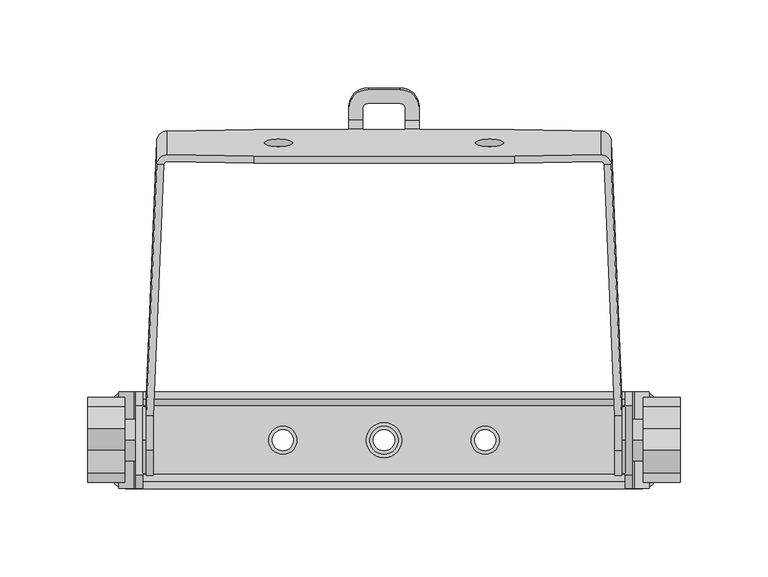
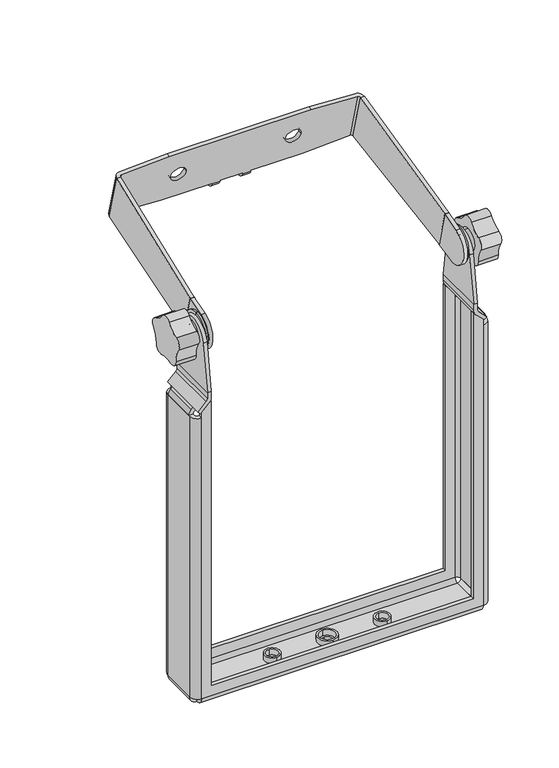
"""IFC4 building model written with IfcOpenShell, lengths in millimetres: proxy geometry, d&b U-Series U7 Swivel Bracket : d&b U-Series U7 Swivel Bracket."""

from ifc_helpers import new_model, si_unit, point, frame, frame_2d, origin, origin_2d, place, context, project, spatial, polyline, circle_curve, ellipse_curve, trimmed, segment, composite_curve, outline, extrude, source, transform, mapped, element, save
from ifc_brep_helpers import plane_surface, cylinder_surface, revolved_surface, advanced_brep


def communication_devices_b4fd94f2(model_context):
    return source(origin(), model_context, "Body", "SolidModel", [
        extrude(outline(polyline([(51.8465222, -1e-07), (0.000579, -1e-07), (5.2119989, 149.3506803), (46.6310815, 149.3506803), (51.8465222, -1e-07)])), frame((125.142689, 170.0266394, 18.7211781), z_axis=(0.999229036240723, 0.037922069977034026, 0.010161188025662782), x_axis=(0.0, -0.25881904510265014, 0.9659258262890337)), (0.0, 0.0, 1.0), 4.0),
        extrude(outline(polyline([(149.4417162, 0.0), (0.0, 0.0), (-1.4455051, 41.3938512), (147.6323189, 51.81436), (149.4417162, 0.0)])), frame((-131.0061692, 13.8071687, 25.138345), z_axis=(-0.9992290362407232, 0.03792206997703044, 0.010161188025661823), x_axis=(0.039235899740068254, 0.9555605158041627, 0.2921722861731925)), (0.0, 0.0, 1.0), 4.0),
        extrude(outline(composite_curve([segment(polyline([(13.9582388, 25.181297), (24.6788379, -14.8285235), (4.4990211, -19.4874013)]), True, "CONTINUOUS"), segment(trimmed(circle_curve(origin_2d(), 20.0), [point((4.4990211, -19.4874013))], [point((-5.8474341, 19.1260951))], False, "CARTESIAN"), True, "CONTINUOUS"), segment(polyline([(-5.8474341, 19.1260951), (13.9582388, 25.181297)]), True, "CONTINUOUS")], self_intersect=False)), frame((131.0, 0.0, 0.0), z_axis=(1.0, 0.0, 0.0), x_axis=(0.0, 1.0, 0.0)), (0.0, 0.0, 1.0), 4.0),
        advanced_brep(
        [(123.1442309, 158.4118169, 69.4923159), (74.0, 157.5223854, 72.8117194), (-74.0, 157.5223854, 72.8117194), (-123.1442309, 158.4118169, 69.4923159), (-123.1442309, 171.959118, 18.9331), (-74.0, 172.8485495, 15.6136965), (-20.0, 172.8485495, 15.6136965), (-20.0, 173.1073685, 14.6477707), (-12.0, 173.1073685, 14.6477707), (-12.0, 172.8485495, 15.6136965), (12.0, 172.8485495, 15.6136965), (12.0, 173.1073685, 14.6477707), (20.0, 173.1073685, 14.6477707), (20.0, 172.8485495, 15.6136965), (74.0, 172.8485495, 15.6136965), (123.1442309, 171.959118, 18.9331), (-68.015413, 165.1854675, 44.2127079), (-51.9395257, 165.1854675, 44.2127079), (68.015413, 165.1854675, 44.2127079), (51.9395257, 165.1854675, 44.2127079), (-123.1442309, 162.2755202, 70.5275921), (-74.0, 161.3860887, 73.8469956), (74.0, 161.3860887, 73.8469956), (123.1442309, 162.2755202, 70.5275921), (123.1442309, 175.8228213, 19.9683762), (74.0, 176.7122528, 16.6489727), (20.0, 176.7122528, 16.6489727), (20.0, 176.9710718, 15.6830468), (12.0, 176.9710718, 15.6830468), (12.0, 176.7122528, 16.6489727), (-12.0, 176.7122528, 16.6489727), (-12.0, 176.9710718, 15.6830468), (-20.0, 176.9710718, 15.6830468), (-20.0, 176.7122528, 16.6489727), (-74.0, 176.7122528, 16.6489727), (-123.1442309, 175.8228213, 19.9683762), (-51.9395257, 169.0491708, 45.2479841), (-68.015413, 169.0491708, 45.2479841), (51.9395257, 169.0491708, 45.2479841), (68.015413, 169.0491708, 45.2479841), (129.1390436, 156.815972, 68.6307247), (125.142689, 156.5919783, 68.8600161), (125.142689, 170.0669416, 18.5707684), (129.1390436, 170.1462802, 18.8813374), (-125.142689, 156.5919783, 68.8600161), (-125.142689, 170.0669416, 18.5707684), (-129.1390436, 156.815972, 68.6307247), (-129.1390436, 170.1462802, 18.8813374), (-12.0, 182.9053275, 8.9909164), (-12.0, 189.6668083, 10.8026497), (-12.0, 188.6315321, 14.666353), (-12.0, 181.8700513, 12.8546197), (-20.0, 181.8700513, 12.8546197), (-20.0, 188.6315321, 14.666353), (-20.0, 189.6668083, 10.8026497), (-20.0, 182.9053275, 8.9909164), (-9.0, 191.5293096, 15.4428102), (9.0, 191.5293096, 15.4428102), (12.0, 188.6315321, 14.666353), (12.0, 181.8700513, 12.8546197), (20.0, 181.8700513, 12.8546197), (20.0, 188.6315321, 14.666353), (9.0, 199.2567162, 17.5133625), (-9.0, 199.2567162, 17.5133625), (-9.0, 200.2919924, 13.6496592), (9.0, 200.2919924, 13.6496592), (20.0, 189.6668083, 10.8026497), (20.0, 182.9053275, 8.9909164), (12.0, 182.9053275, 8.9909164), (12.0, 189.6668083, 10.8026497), (9.0, 192.5645858, 11.5791069), (-9.0, 192.5645858, 11.5791069)],
        [
            (0, 1),
            (1, 2),
            (2, 3),
            (3, 4),
            (4, 5),
            (5, 6),
            (6, 7),
            (7, 8),
            (8, 9),
            (9, 10),
            (10, 11),
            (11, 12),
            (12, 13),
            (13, 14),
            (14, 15),
            (15, 0),
            (16, 17, circle_curve(frame((-59.9774693, 165.1854675, 44.2127079), z_axis=(0.0, 0.9659258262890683, 0.2588190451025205), x_axis=(1.0, 0.0, 0.0)), 8.0379437)),
            (17, 16, circle_curve(frame((-59.9774693, 165.1854675, 44.2127079), z_axis=(0.0, 0.9659258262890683, 0.2588190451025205), x_axis=(1.0, 0.0, 0.0)), 8.0379437)),
            (18, 19, circle_curve(frame((59.9774693, 165.1854675, 44.2127079), z_axis=(0.0, 0.9659258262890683, 0.2588190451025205), x_axis=(-1.0, 0.0, 0.0)), 8.0379437)),
            (19, 18, circle_curve(frame((59.9774693, 165.1854675, 44.2127079), z_axis=(0.0, 0.9659258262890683, 0.2588190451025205), x_axis=(-1.0, 0.0, 0.0)), 8.0379437)),
            (20, 21),
            (21, 22),
            (22, 23),
            (23, 24),
            (24, 25),
            (25, 26),
            (26, 27),
            (27, 28),
            (28, 29),
            (29, 30),
            (30, 31),
            (31, 32),
            (32, 33),
            (33, 34),
            (34, 35),
            (35, 20),
            (36, 37, circle_curve(frame((-59.9774693, 169.0491708, 45.2479841), z_axis=(0.0, -0.9659258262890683, -0.2588190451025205), x_axis=(1.0, 0.0, 0.0)), 8.0379437)),
            (37, 36, circle_curve(frame((-59.9774693, 169.0491708, 45.2479841), z_axis=(0.0, -0.9659258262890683, -0.2588190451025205), x_axis=(1.0, 0.0, 0.0)), 8.0379437)),
            (38, 39, circle_curve(frame((59.9774693, 169.0491708, 45.2479841), z_axis=(0.0, -0.9659258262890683, -0.2588190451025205), x_axis=(-1.0, 0.0, 0.0)), 8.0379437)),
            (39, 38, circle_curve(frame((59.9774693, 169.0491708, 45.2479841), z_axis=(0.0, -0.9659258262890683, -0.2588190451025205), x_axis=(-1.0, 0.0, 0.0)), 8.0379437)),
            (40, 41),
            (41, 42),
            (42, 43),
            (43, 40),
            (17, 36),
            (37, 16),
            (19, 38),
            (39, 18),
            (3, 44, ellipse_curve(frame((-123.1442309, 156.4799653, 68.9746778), z_axis=(-0.06975647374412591, -0.2581885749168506, 0.9635728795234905), x_axis=(-0.9975640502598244, 0.018054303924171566, -0.06737957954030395)), 2.0048838, 2.0)),
            (44, 45),
            (45, 4, ellipse_curve(frame((-123.1442309, 170.0272663, 18.4154619), z_axis=(-0.0697564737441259, 0.25818857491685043, -0.9635728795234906), x_axis=(0.9975640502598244, 0.01805430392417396, -0.06737957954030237)), 2.0048838, 2.0)),
            (44, 46),
            (46, 47),
            (47, 45),
            (35, 47, ellipse_curve(frame((-123.1442309, 170.0278313, 18.4156133), z_axis=(0.0697564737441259, -0.25818857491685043, 0.9635728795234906), x_axis=(-0.9975640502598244, -0.01805430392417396, 0.06737957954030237)), 6.014065, 5.9994151)),
            (46, 20, ellipse_curve(frame((-123.1442309, 156.4805303, 68.9748292), z_axis=(0.06975647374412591, 0.2581885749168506, -0.9635728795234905), x_axis=(0.9975640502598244, -0.018054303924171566, 0.06737957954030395)), 6.014065, 5.9994151)),
            (43, 24, ellipse_curve(frame((123.1442309, 170.0278313, 18.4156133), z_axis=(-0.06975647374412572, -0.2581885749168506, 0.9635728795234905), x_axis=(0.9975640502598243, -0.01805430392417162, 0.06737957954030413)), 6.014065, 5.9994151)),
            (23, 40, ellipse_curve(frame((123.1442309, 156.4805303, 68.9748292), z_axis=(-0.06975647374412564, 0.2581885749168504, -0.9635728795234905), x_axis=(-0.9975640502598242, -0.01805430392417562, 0.06737957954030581)), 6.014065, 5.9994151)),
            (15, 42, ellipse_curve(frame((123.1442309, 170.0272663, 18.4154619), z_axis=(0.06975647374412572, 0.2581885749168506, -0.9635728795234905), x_axis=(-0.9975640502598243, 0.01805430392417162, -0.06737957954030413)), 2.0048838, 2.0)),
            (41, 0, ellipse_curve(frame((123.1442309, 156.4799653, 68.9746778), z_axis=(0.06975647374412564, -0.2581885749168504, 0.9635728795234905), x_axis=(0.9975640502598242, 0.01805430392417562, -0.06737957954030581)), 2.0048838, 2.0)),
            (14, 25),
            (13, 26),
            (33, 6),
            (5, 34),
            (29, 10),
            (9, 30),
            (2, 21),
            (1, 22),
            (8, 48, circle_curve(frame((-12.0, 180.8347751, 16.718323), z_axis=(1.0, 0.0, 0.0), x_axis=(0.0, 0.9659258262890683, 0.2588190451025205)), 8.0)),
            (48, 49),
            (49, 50),
            (50, 51),
            (51, 31, circle_curve(frame((-12.0, 180.8347751, 16.718323), z_axis=(-1.0, 0.0, 0.0), x_axis=(0.0, 0.9659258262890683, 0.2588190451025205)), 4.0)),
            (32, 52, circle_curve(frame((-20.0, 180.8347751, 16.718323), z_axis=(1.0, 0.0, 0.0), x_axis=(0.0, 0.9659258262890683, 0.2588190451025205)), 4.0)),
            (52, 53),
            (53, 54),
            (54, 55),
            (55, 7, circle_curve(frame((-20.0, 180.8347751, 16.718323), z_axis=(-1.0, 0.0, 0.0), x_axis=(0.0, 0.9659258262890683, 0.2588190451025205)), 8.0)),
            (51, 52),
            (50, 56, circle_curve(frame((-9.0, 188.6315321, 14.666353), z_axis=(0.0, 0.2588190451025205, -0.9659258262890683), x_axis=(1.0, 0.0, 0.0)), 3.0)),
            (56, 57),
            (57, 58, circle_curve(frame((9.0, 188.6315321, 14.666353), z_axis=(0.0, 0.2588190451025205, -0.9659258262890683), x_axis=(-1.0, 0.0, 0.0)), 3.0)),
            (58, 59),
            (59, 60),
            (60, 61),
            (61, 62, circle_curve(frame((9.0, 188.6315321, 14.666353), z_axis=(0.0, -0.2588190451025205, 0.9659258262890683), x_axis=(-1.0, 0.0, 0.0)), 11.0)),
            (62, 63),
            (63, 53, circle_curve(frame((-9.0, 188.6315321, 14.666353), z_axis=(0.0, -0.2588190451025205, 0.9659258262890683), x_axis=(1.0, 0.0, 0.0)), 11.0)),
            (48, 55),
            (54, 64, circle_curve(frame((-9.0, 189.6668083, 10.8026497), z_axis=(0.0, 0.2588190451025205, -0.9659258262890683), x_axis=(1.0, 0.0, 0.0)), 11.0)),
            (64, 65),
            (65, 66, circle_curve(frame((9.0, 189.6668083, 10.8026497), z_axis=(0.0, 0.2588190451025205, -0.9659258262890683), x_axis=(-1.0, 0.0, 0.0)), 11.0)),
            (66, 67),
            (67, 68),
            (68, 69),
            (69, 70, circle_curve(frame((9.0, 189.6668083, 10.8026497), z_axis=(0.0, -0.2588190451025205, 0.9659258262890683), x_axis=(-1.0, 0.0, 0.0)), 3.0)),
            (70, 71),
            (71, 49, circle_curve(frame((-9.0, 189.6668083, 10.8026497), z_axis=(0.0, -0.2588190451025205, 0.9659258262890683), x_axis=(1.0, 0.0, 0.0)), 3.0)),
            (28, 59, circle_curve(frame((12.0, 180.8347751, 16.718323), z_axis=(1.0, 0.0, 0.0), x_axis=(0.0, 0.9659258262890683, 0.2588190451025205)), 4.0)),
            (58, 69),
            (68, 11, circle_curve(frame((12.0, 180.8347751, 16.718323), z_axis=(-1.0, 0.0, 0.0), x_axis=(0.0, 0.9659258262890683, 0.2588190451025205)), 8.0)),
            (12, 67, circle_curve(frame((20.0, 180.8347751, 16.718323), z_axis=(1.0, 0.0, 0.0), x_axis=(0.0, 0.9659258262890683, 0.2588190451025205)), 8.0)),
            (66, 61),
            (60, 27, circle_curve(frame((20.0, 180.8347751, 16.718323), z_axis=(-1.0, 0.0, 0.0), x_axis=(0.0, 0.9659258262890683, 0.2588190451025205)), 4.0)),
            (56, 71),
            (70, 57),
            (63, 64),
            (62, 65),
        ],
        [
            plane_surface(frame((123.1442309, 152.5170253, 91.4919777), z_axis=(0.0, -0.9659258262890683, -0.2588190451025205), x_axis=(0.0, 0.2588190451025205, -0.9659258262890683))),
            plane_surface(frame((-123.1442309, 156.3807286, 92.5272539), z_axis=(0.0, 0.9659258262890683, 0.2588190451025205), x_axis=(0.0, 0.2588190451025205, -0.9659258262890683))),
            plane_surface(frame((129.1390436, 150.8126839, 91.0353008), z_axis=(0.0392596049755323, -0.9651811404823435, -0.25861950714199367), x_axis=(0.0, 0.2588190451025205, -0.9659258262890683))),
            revolved_surface(polyline([(-51.9395256, 169.04917079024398, 45.24798413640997), (-51.9395256, 165.18546748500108, 44.21270795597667)]), (-59.9774693, 144.9010251, 38.777508), (0.0, 0.9659258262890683, 0.2588190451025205)),
            revolved_surface(polyline([(51.9395256, 169.0491708, 45.2479841), (51.9395256, 165.18546749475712, 44.212707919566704)]), (59.9774693, 169.0491708, 45.2479841), (0.0, 0.9659258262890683, 0.2588190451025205)),
            revolved_surface(polyline([(-125.1442309, 170.06346311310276, 18.28037368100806), (-125.1442309, 156.44376848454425, 69.10976601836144)]), (-123.1442309, 173.893741, 3.985582), (0.0, 0.2588190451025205, -0.9659258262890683)),
            plane_surface(frame((-125.142689, 150.6610178, 90.994662), z_axis=(-0.03925960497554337, -0.9651811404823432, -0.2586195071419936), x_axis=(0.0, 0.2588190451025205, -0.9659258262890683))),
            cylinder_surface(frame((-123.1442309, 173.894306, 3.9857334), z_axis=(0.0, -0.2588190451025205, 0.9659258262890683), x_axis=(-1.0, 0.0, 0.0)), 5.9994151),
            cylinder_surface(frame((123.1442309, 173.894306, 3.9857334), z_axis=(0.0, -0.2588190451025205, 0.9659258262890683), x_axis=(1.0, 0.0, 0.0)), 5.9994151),
            revolved_surface(polyline([(125.1442309, 170.06346311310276, 18.28037368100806), (125.1442309, 156.44376848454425, 69.10976601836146)]), (123.1442309, 173.893741, 3.985582), (0.0, 0.2588190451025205, -0.9659258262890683)),
            plane_surface(frame((141.9929542, 223.9217654, 34.2209756), z_axis=(0.06975647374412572, 0.2581885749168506, -0.9635728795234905), x_axis=(0.0, -0.9659258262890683, -0.2588190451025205))),
            plane_surface(frame((74.0, 225.1523285, 29.6284518), z_axis=(0.0, 0.2588190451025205, -0.9659258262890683), x_axis=(0.0, -0.9659258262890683, -0.2588190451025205))),
            plane_surface(frame((-74.0, 225.1523285, 29.6284518), z_axis=(-0.06975647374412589, 0.2581885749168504, -0.9635728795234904), x_axis=(0.0, -0.9659258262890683, -0.2588190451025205))),
            plane_surface(frame((-148.0070458, 211.1655728, 81.8277344), z_axis=(-0.06975647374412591, -0.2581885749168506, 0.9635728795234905), x_axis=(0.0, -0.9659258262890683, -0.2588190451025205))),
            plane_surface(frame((-74.0, 209.8261644, 86.8264747), z_axis=(0.0, -0.2588190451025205, 0.9659258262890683), x_axis=(0.0, -0.9659258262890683, -0.2588190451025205))),
            plane_surface(frame((74.0, 209.8261644, 86.8264747), z_axis=(0.06975647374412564, -0.2581885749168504, 0.9635728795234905), x_axis=(0.0, -0.9659258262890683, -0.2588190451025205))),
            plane_surface(frame((-12.0, 184.6984784, 17.7535992), z_axis=(1.0, 0.0, 0.0), x_axis=(0.0, -0.2588190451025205, 0.9659258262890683))),
            plane_surface(frame((-20.0, 184.6984784, 17.7535992), z_axis=(-1.0, 0.0, 0.0), x_axis=(0.0, 0.2588190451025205, -0.9659258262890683))),
            revolved_surface(polyline([(-20.0, 184.69847840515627, 17.753599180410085), (-12.0, 184.69847840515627, 17.753599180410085)]), (-20.0, 180.8347751, 16.718323), (-1.0, 0.0, 0.0)),
            plane_surface(frame((-12.0, 181.8700513, 12.8546197), z_axis=(0.0, -0.2588190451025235, 0.9659258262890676), x_axis=(-1.0, 0.0, 0.0))),
            plane_surface(frame((-12.0, 189.6668083, 10.8026497), z_axis=(0.0, 0.258819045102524, -0.9659258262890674), x_axis=(-1.0, 0.0, 0.0))),
            cylinder_surface(frame((-20.0, 180.8347751, 16.718323), z_axis=(1.0, 0.0, 0.0), x_axis=(0.0, 0.9659258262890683, 0.2588190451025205)), 8.0),
            plane_surface(frame((12.0, 175.8228213, 19.9683762), z_axis=(-1.0, 0.0, 0.0), x_axis=(0.0, -0.2588190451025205, 0.9659258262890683))),
            plane_surface(frame((20.0, 175.8228213, 19.9683762), z_axis=(1.0, 0.0, 0.0), x_axis=(0.0, 0.2588190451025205, -0.9659258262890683))),
            revolved_surface(polyline([(20.0, 184.69847840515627, 17.753599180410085), (12.0, 184.69847840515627, 17.753599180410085)]), (20.0, 180.8347751, 16.718323), (1.0, 0.0, 0.0)),
            cylinder_surface(frame((20.0, 180.8347751, 16.718323), z_axis=(-1.0, 0.0, 0.0), x_axis=(0.0, 0.9659258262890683, 0.2588190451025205)), 8.0),
            plane_surface(frame((9.0, 191.5293096, 15.4428102), z_axis=(0.0, -0.9659258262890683, -0.2588190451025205), x_axis=(0.0, 0.2588190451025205, -0.9659258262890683))),
            revolved_surface(polyline([(-6.0, 189.6668083, 10.8026497), (-6.0, 188.63153210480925, 14.666353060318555)]), (-9.0, 189.6668083, 10.8026497), (0.0, 0.2588190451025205, -0.9659258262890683)),
            cylinder_surface(frame((-9.0, 189.6668083, 10.8026497), z_axis=(0.0, -0.2588190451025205, 0.9659258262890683), x_axis=(1.0, 0.0, 0.0)), 11.0),
            plane_surface(frame((-9.0, 199.2567162, 17.5133625), z_axis=(0.0, 0.9659258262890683, 0.2588190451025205), x_axis=(0.0, 0.2588190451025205, -0.9659258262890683))),
            cylinder_surface(frame((9.0, 189.6668083, 10.8026497), z_axis=(0.0, -0.2588190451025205, 0.9659258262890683), x_axis=(-1.0, 0.0, 0.0)), 11.0),
            revolved_surface(polyline([(6.0, 189.6668083, 10.8026497), (6.0, 188.63153210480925, 14.666353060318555)]), (9.0, 189.6668083, 10.8026497), (0.0, 0.2588190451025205, -0.9659258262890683)),
        ],
        [
            (0, [[1, 2, 3, 4, 5, 6, 7, 8, 9, 10, 11, 12, 13, 14, 15, 16], [17, 18], [19, 20]]),
            (1, [[21, 22, 23, 24, 25, 26, 27, 28, 29, 30, 31, 32, 33, 34, 35, 36], [37, 38], [39, 40]]),
            (2, [[41, 42, 43, 44]]),
            (3, [[-18, 45, -38, 46]]),
            (3, [[-37, -45, -17, -46]]),
            (4, [[-20, 47, -40, 48]]),
            (4, [[-39, -47, -19, -48]]),
            (5, [[49, 50, 51, -4]]),
            (6, [[52, 53, 54, -50]]),
            (7, [[55, -53, 56, -36]]),
            (8, [[57, -24, 58, -44]]),
            (9, [[59, -42, 60, -16]]),
            (10, [[-25, -57, -43, -59, -15, 61]]),
            (11, [[-14, 62, -26, -61]]),
            (11, [[-34, 63, -6, 64]]),
            (11, [[-30, 65, -10, 66]]),
            (12, [[-5, -51, -54, -55, -35, -64]]),
            (13, [[-21, -56, -52, -49, -3, 67]]),
            (14, [[-2, 68, -22, -67]]),
            (15, [[-1, -60, -41, -58, -23, -68]]),
            (16, [[-31, -66, -9, 69, 70, 71, 72, 73]]),
            (17, [[74, 75, 76, 77, 78, -7, -63, -33]]),
            (18, [[79, -74, -32, -73]]),
            (19, [[80, 81, 82, 83, 84, 85, 86, 87, 88, -75, -79, -72]]),
            (20, [[89, -77, 90, 91, 92, 93, 94, 95, 96, 97, 98, -70]]),
            (21, [[-8, -78, -89, -69]]),
            (22, [[99, -83, 100, -95, 101, -11, -65, -29]]),
            (23, [[-27, -62, -13, 102, -93, 103, -85, 104]]),
            (24, [[-28, -104, -84, -99]]),
            (25, [[-94, -102, -12, -101]]),
            (26, [[105, -97, 106, -81]]),
            (27, [[-71, -98, -105, -80]]),
            (28, [[107, -90, -76, -88]]),
            (29, [[108, -91, -107, -87]]),
            (30, [[-103, -92, -108, -86]]),
            (31, [[-106, -96, -100, -82]]),
        ],
    ),
        advanced_brep(
        [(-135.0, -5.8474341, 19.1260951), (-135.0, 10.0493739, 23.9862371), (-135.0, 13.9582388, 25.181297), (-135.0, 24.6788379, -14.8285235), (-135.0, 20.6961316, -15.7480037), (-135.0, 4.4990211, -19.4874013), (-131.0, 13.9582388, 25.181297), (-131.0, 10.0493739, 23.9862371), (-131.0, -5.8474341, 19.1260951), (-131.0, 4.4990211, -19.4874013), (-131.0, 20.6961316, -15.7480037), (-131.0, 24.6788379, -14.8285235)],
        [
            (0, 1),
            (1, 2),
            (2, 3),
            (3, 4),
            (4, 5),
            (5, 0, circle_curve(frame((-135.0, 0.0, 0.0), z_axis=(-1.0, 0.0, 0.0), x_axis=(0.0, 0.9659258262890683, 0.2588190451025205)), 20.0)),
            (6, 7),
            (7, 8),
            (8, 9, circle_curve(frame((-131.0, 0.0, 0.0), z_axis=(1.0, 0.0, 0.0), x_axis=(0.0, 0.9659258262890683, 0.2588190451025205)), 20.0)),
            (9, 10),
            (10, 11),
            (11, 6),
            (5, 9),
            (8, 0),
            (2, 6),
            (11, 3),
        ],
        [
            plane_surface(frame((-135.0, -5.8474341, 19.1260951), z_axis=(-1.0000000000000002, 0.0, 0.0), x_axis=(0.0, -0.9563047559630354, -0.2923717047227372))),
            plane_surface(frame((-131.0, -5.8474341, 19.1260951), z_axis=(1.0000000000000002, 0.0, 0.0), x_axis=(0.0, 0.9563047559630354, 0.2923717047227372))),
            cylinder_surface(frame((-131.0, 0.0, 0.0), z_axis=(-1.0, 0.0, 0.0), x_axis=(0.0, 0.9659258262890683, 0.2588190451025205)), 20.0),
            plane_surface(frame((-135.0, 24.6788379, -14.8285235), z_axis=(0.0, 0.965925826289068, 0.2588190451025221), x_axis=(1.0, 0.0, 0.0))),
            plane_surface(frame((-135.0, 4.4990211, -19.4874013), z_axis=(0.0, 0.22495105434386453, -0.9743700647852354), x_axis=(1.0, 0.0, 0.0))),
            plane_surface(frame((-135.0, 13.9582388, 25.181297), z_axis=(0.0, -0.2923717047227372, 0.9563047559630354), x_axis=(1.0, 0.0, 0.0))),
        ],
        [
            (0, [[1, 2, 3, 4, 5, 6]]),
            (1, [[7, 8, 9, 10, 11, 12]]),
            (2, [[13, -9, 14, -6]]),
            (3, [[15, -12, 16, -3]]),
            (4, [[-11, -10, -13, -5, -4, -16]]),
            (5, [[-2, -1, -14, -8, -7, -15]]),
        ],
    ),
        extrude(outline(polyline([(-376.1, 137.0), (-376.1, -137.0), (-61.8431458, -137.0), (-71.7740865, -146.9309407), (-387.0, -146.9309407), (-387.0, 146.9309407), (-71.7740865, 146.9309407), (-61.8431458, 137.0), (-376.1, 137.0)])), frame((0.0, -27.5279598, 0.0), z_axis=(0.0, 1.0, 0.0), x_axis=(0.0, 0.0, 1.0)), (0.0, 0.0, 1.0), 4.0016589),
        extrude(outline(polyline([(-376.1, 137.0), (-376.1, -137.0), (-61.8431458, -137.0), (-71.7740865, -146.9309407), (-387.0, -146.9309407), (-387.0, 146.9309407), (-71.7740865, 146.9309407), (-61.8431458, 137.0), (-376.1, 137.0)])), frame((0.0, 23.5263009, 0.0), z_axis=(0.0, 1.0, 0.0), x_axis=(0.0, 0.0, 1.0)), (0.0, 0.0, 1.0), 4.0016589),
        advanced_brep(
        [(147.0, -23.5263009, -387.0), (147.0, -27.5279598, -387.0), (147.0, -19.5263009, -395.0), (147.0, 19.5263009, -395.0), (147.0, 27.5279598, -387.0), (147.0, 23.5263009, -387.0), (147.0, 19.5263009, -391.0), (147.0, -19.5263009, -391.0), (-147.0, -23.5263009, -387.0), (-147.0, -19.5263009, -391.0), (-147.0, 19.5263009, -391.0), (-147.0, 23.5263009, -387.0), (-147.0, 27.5279598, -387.0), (-147.0, 19.5263009, -395.0), (-147.0, -19.5263009, -395.0), (-147.0, -27.5279598, -387.0), (-57.5, 6.0, -395.0), (-57.5, -6.0, -395.0), (-57.5, -6.0, -391.0), (-57.5, 6.0, -391.0), (0.0, -6.0, -395.0), (0.0, 6.0, -395.0), (0.0, 6.0, -391.0), (0.0, -6.0, -391.0), (57.5, -6.0, -395.0), (57.5, 6.0, -395.0), (57.5, 6.0, -391.0), (57.5, -6.0, -391.0)],
        [
            (0, 1),
            (1, 2, circle_curve(frame((147.0, -19.5263009, -386.9983409), z_axis=(1.0, 0.0, 0.0), x_axis=(0.0, -1.0, 0.0)), 8.0016591)),
            (2, 3),
            (3, 4, circle_curve(frame((147.0, 19.5263009, -386.9983409), z_axis=(1.0, 0.0, 0.0), x_axis=(0.0, -1.0, 0.0)), 8.0016591)),
            (4, 5),
            (5, 6, circle_curve(frame((147.0, 19.5263009, -387.0), z_axis=(-1.0, 0.0, 0.0), x_axis=(0.0, -1.0, 0.0)), 4.0)),
            (6, 7),
            (7, 0, circle_curve(frame((147.0, -19.5263009, -387.0), z_axis=(-1.0, 0.0, 0.0), x_axis=(0.0, -1.0, 0.0)), 4.0)),
            (8, 9, circle_curve(frame((-147.0, -19.5263009, -387.0), z_axis=(1.0, 0.0, 0.0), x_axis=(0.0, -1.0, 0.0)), 4.0)),
            (9, 10),
            (10, 11, circle_curve(frame((-147.0, 19.5263009, -387.0), z_axis=(1.0, 0.0, 0.0), x_axis=(0.0, -1.0, 0.0)), 4.0)),
            (11, 12),
            (12, 13, circle_curve(frame((-147.0, 19.5263009, -386.9983409), z_axis=(-1.0, 0.0, 0.0), x_axis=(0.0, -1.0, 0.0)), 8.0016591)),
            (13, 14),
            (14, 15, circle_curve(frame((-147.0, -19.5263009, -386.9983409), z_axis=(-1.0, 0.0, 0.0), x_axis=(0.0, -1.0, 0.0)), 8.0016591)),
            (15, 8),
            (16, 17, circle_curve(frame((-57.5, 0.0, -395.0), z_axis=(0.0, 0.0, -1.0), x_axis=(0.0, -1.0, 0.0)), 6.0)),
            (17, 18),
            (18, 19, circle_curve(frame((-57.5, 0.0, -391.0), z_axis=(0.0, 0.0, 1.0), x_axis=(0.0, -1.0, 0.0)), 6.0)),
            (19, 16),
            (19, 18, circle_curve(frame((-57.5, 0.0, -391.0), z_axis=(0.0, 0.0, 1.0), x_axis=(0.0, -1.0, 0.0)), 6.0)),
            (17, 16, circle_curve(frame((-57.5, 0.0, -395.0), z_axis=(0.0, 0.0, -1.0), x_axis=(0.0, -1.0, 0.0)), 6.0)),
            (20, 21, circle_curve(frame((0.0, 0.0, -395.0), z_axis=(0.0, 0.0, -1.0), x_axis=(0.0, -1.0, 0.0)), 6.0)),
            (21, 22),
            (22, 23, circle_curve(frame((0.0, 0.0, -391.0), z_axis=(0.0, 0.0, 1.0), x_axis=(0.0, -1.0, 0.0)), 6.0)),
            (23, 20),
            (23, 22, circle_curve(frame((0.0, 0.0, -391.0), z_axis=(0.0, 0.0, 1.0), x_axis=(0.0, -1.0, 0.0)), 6.0)),
            (21, 20, circle_curve(frame((0.0, 0.0, -395.0), z_axis=(0.0, 0.0, -1.0), x_axis=(0.0, -1.0, 0.0)), 6.0)),
            (24, 25, circle_curve(frame((57.5, 0.0, -395.0), z_axis=(0.0, 0.0, -1.0), x_axis=(0.0, -1.0, 0.0)), 6.0)),
            (25, 26),
            (26, 27, circle_curve(frame((57.5, 0.0, -391.0), z_axis=(0.0, 0.0, 1.0), x_axis=(0.0, -1.0, 0.0)), 6.0)),
            (27, 24),
            (27, 26, circle_curve(frame((57.5, 0.0, -391.0), z_axis=(0.0, 0.0, 1.0), x_axis=(0.0, -1.0, 0.0)), 6.0)),
            (25, 24, circle_curve(frame((57.5, 0.0, -395.0), z_axis=(0.0, 0.0, -1.0), x_axis=(0.0, -1.0, 0.0)), 6.0)),
            (7, 9),
            (8, 0),
            (6, 10),
            (5, 11),
            (4, 12),
            (3, 13),
            (2, 14),
            (1, 15),
        ],
        [
            plane_surface(frame((147.0, -23.5263009, -387.0), z_axis=(1.0, 0.0, 0.0), x_axis=(0.0, 0.0, -1.0))),
            plane_surface(frame((-147.0, -23.5263009, -387.0), z_axis=(-1.0, 0.0, 0.0), x_axis=(0.0, 0.0, 1.0))),
            revolved_surface(polyline([(-57.5, -6.0, -391.0), (-57.5, -6.0, -395.0)]), (-57.5, 0.0, -401.3579117), (0.0, 0.0, 1.0)),
            revolved_surface(polyline([(0.0, -6.0, -391.0), (0.0, -6.0, -395.0)]), (0.0, 0.0, -370.0), (0.0, 0.0, 1.0)),
            revolved_surface(polyline([(57.5, -6.0, -391.0), (57.5, -6.0, -395.0)]), (57.5, 0.0, -370.0), (0.0, 0.0, 1.0)),
            revolved_surface(polyline([(-147.0, -23.5263009, -387.0), (147.0, -23.5263009, -387.0)]), (-147.0, -19.5263009, -387.0), (-1.0, 0.0, 0.0)),
            plane_surface(frame((147.0, -19.5263009, -391.0), z_axis=(0.0, 0.0, 1.0), x_axis=(-1.0, 0.0, 0.0))),
            revolved_surface(polyline([(-147.0, 15.526300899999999, -387.0), (147.0, 15.526300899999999, -387.0)]), (-147.0, 19.5263009, -387.0), (-1.0, 0.0, 0.0)),
            plane_surface(frame((147.0, 23.5263009, -387.0), z_axis=(0.0, 0.0, 1.0), x_axis=(-1.0, 0.0, 0.0))),
            cylinder_surface(frame((-147.0, 19.5263009, -386.9983409), z_axis=(1.0, 0.0, 0.0), x_axis=(0.0, -1.0, 0.0)), 8.0016591),
            plane_surface(frame((147.0, 19.5263009, -395.0), z_axis=(0.0, 0.0, -1.0), x_axis=(-1.0, 0.0, 0.0))),
            cylinder_surface(frame((-147.0, -19.5263009, -386.9983409), z_axis=(1.0, 0.0, 0.0), x_axis=(0.0, -1.0, 0.0)), 8.0016591),
            plane_surface(frame((147.0, -27.5279598, -387.0), z_axis=(0.0, 0.0, 1.0), x_axis=(-1.0, 0.0, 0.0))),
        ],
        [
            (0, [[1, 2, 3, 4, 5, 6, 7, 8]]),
            (1, [[9, 10, 11, 12, 13, 14, 15, 16]]),
            (2, [[17, 18, 19, 20]]),
            (2, [[21, -18, 22, -20]]),
            (3, [[23, 24, 25, 26]]),
            (3, [[27, -24, 28, -26]]),
            (4, [[29, 30, 31, 32]]),
            (4, [[33, -30, 34, -32]]),
            (5, [[35, -9, 36, -8]]),
            (6, [[37, -10, -35, -7], [-21, -19], [-27, -25], [-33, -31]]),
            (7, [[38, -11, -37, -6]]),
            (8, [[39, -12, -38, -5]]),
            (9, [[40, -13, -39, -4]]),
            (10, [[41, -14, -40, -3], [-22, -17], [-28, -23], [-34, -29]]),
            (11, [[42, -15, -41, -2]]),
            (12, [[-36, -16, -42, -1]]),
        ],
    ),
        extrude(outline(composite_curve([segment(polyline([(-154.9570429, -19.5018577), (-154.9570429, 19.4895115)]), True, "CONTINUOUS"), segment(trimmed(circle_curve(frame_2d((-146.9309407, 19.4895115)), 8.0261021), [point((-154.9570429, 19.4895115))], [point((-146.9309407, 27.5156136))], False, "CARTESIAN"), True, "CONTINUOUS"), segment(polyline([(-146.9309407, 27.5156136), (-146.9309407, 23.5139547)]), True, "CONTINUOUS"), segment(trimmed(circle_curve(frame_2d((-146.9309407, 19.4876538)), 4.0263009), [point((-146.9309407, 23.5139547))], [point((-150.9572417, 19.4876538))], True, "CARTESIAN"), True, "CONTINUOUS"), segment(polyline([(-150.9572417, 19.4876538), (-150.9572417, -19.5)]), True, "CONTINUOUS"), segment(trimmed(circle_curve(frame_2d((-146.9309407, -19.5)), 4.0263009), [point((-150.9572417, -19.5))], [point((-146.9309407, -23.5263009))], True, "CARTESIAN"), True, "CONTINUOUS"), segment(polyline([(-146.9309407, -23.5263009), (-146.9309407, -27.5279598)]), True, "CONTINUOUS"), segment(trimmed(circle_curve(frame_2d((-146.9309407, -19.5018577)), 8.0261021), [point((-146.9309407, -27.5279598))], [point((-154.9570429, -19.5018577))], False, "CARTESIAN"), True, "CONTINUOUS")], self_intersect=False)), frame((0.0, 0.0, -387.0), z_axis=(0.0, 0.0, 1.0), x_axis=(1.0, 0.0, 0.0)), (0.0, 0.0, 1.0), 309.5),
        extrude(outline(composite_curve([segment(trimmed(circle_curve(frame_2d((146.9309407, -19.5018577)), 8.0261021), [point((154.9570429, -19.5018577))], [point((146.9309407, -27.5279598))], False, "CARTESIAN"), True, "CONTINUOUS"), segment(polyline([(146.9309407, -27.5279598), (146.9309407, -23.5263009)]), True, "CONTINUOUS"), segment(trimmed(circle_curve(frame_2d((146.9309407, -19.5)), 4.0263009), [point((146.9309407, -23.5263009))], [point((150.9572417, -19.5))], True, "CARTESIAN"), True, "CONTINUOUS"), segment(polyline([(150.9572417, -19.5), (150.9572417, 19.4876538)]), True, "CONTINUOUS"), segment(trimmed(circle_curve(frame_2d((146.9309407, 19.4876538)), 4.0263009), [point((150.9572417, 19.4876538))], [point((146.9309407, 23.5139547))], True, "CARTESIAN"), True, "CONTINUOUS"), segment(polyline([(146.9309407, 23.5139547), (146.9309407, 27.5156136)]), True, "CONTINUOUS"), segment(trimmed(circle_curve(frame_2d((146.9309407, 19.4895115)), 8.0261021), [point((146.9309407, 27.5156136))], [point((154.9570429, 19.4895115))], False, "CARTESIAN"), True, "CONTINUOUS"), segment(polyline([(154.9570429, 19.4895115), (154.9570429, -19.5018577)]), True, "CONTINUOUS")], self_intersect=False)), frame((0.0, 0.0, -387.0), z_axis=(0.0, 0.0, 1.0), x_axis=(1.0, 0.0, 0.0)), (0.0, 0.0, 1.0), 309.5),
        extrude(outline(composite_curve([segment(polyline([(-27.5, -51.7799875), (-19.7654158, -1.7257548)]), True, "CONTINUOUS"), segment(trimmed(circle_curve(frame_2d((0.0, -4.7799875)), 20.0), [point((-19.7654158, -1.7257548))], [point((19.7654158, -1.7257548))], False, "CARTESIAN"), True, "CONTINUOUS"), segment(polyline([(19.7654158, -1.7257548), (27.5, -51.7799875), (-27.5, -51.7799875)]), True, "CONTINUOUS")], self_intersect=False), holes=[composite_curve([segment(trimmed(circle_curve(origin_2d(), 6.0), [point((6.0, 0.0))], [point((-6.0, 0.0))], True, "CARTESIAN"), True, "CONTINUOUS"), segment(trimmed(circle_curve(origin_2d(), 6.0), [point((-6.0, 0.0))], [point((6.0, 0.0))], True, "CARTESIAN"), True, "CONTINUOUS")], self_intersect=False)]), frame((137.0, 0.0, 0.0), z_axis=(1.0, 0.0, 0.0), x_axis=(0.0, 1.0, 0.0)), (0.0, 0.0, 1.0), 4.0),
        extrude(outline(composite_curve([segment(polyline([(-27.5, -51.7799875), (-19.7654158, -1.7257548)]), True, "CONTINUOUS"), segment(trimmed(circle_curve(frame_2d((0.0, -4.7799875)), 20.0), [point((-19.7654158, -1.7257548))], [point((19.7654158, -1.7257548))], False, "CARTESIAN"), True, "CONTINUOUS"), segment(polyline([(19.7654158, -1.7257548), (27.5, -51.7799875), (-27.5, -51.7799875)]), True, "CONTINUOUS")], self_intersect=False), holes=[composite_curve([segment(trimmed(circle_curve(origin_2d(), 6.0), [point((6.0, 0.0))], [point((-6.0, 0.0))], True, "CARTESIAN"), True, "CONTINUOUS"), segment(trimmed(circle_curve(origin_2d(), 6.0), [point((-6.0, 0.0))], [point((6.0, 0.0))], True, "CARTESIAN"), True, "CONTINUOUS")], self_intersect=False)]), frame((-141.0, 0.0, 0.0), z_axis=(1.0, 0.0, 0.0), x_axis=(0.0, 1.0, 0.0)), (0.0, 0.0, 1.0), 4.0),
        extrude(outline(composite_curve([segment(polyline([(-51.7799875, -141.0), (-58.5294373, -141.0)]), True, "CONTINUOUS"), segment(trimmed(circle_curve(frame_2d((-58.5294373, -145.0)), 4.0), [point((-58.5294373, -141.0))], [point((-61.3578644, -142.1715729))], True, "CARTESIAN"), True, "CONTINUOUS"), segment(polyline([(-61.3578644, -142.1715729), (-69.8357131, -150.6494216), (-72.6641403, -147.8209945), (-64.1862915, -139.3431458)]), True, "CONTINUOUS"), segment(trimmed(circle_curve(frame_2d((-58.5294373, -145.0)), 8.0), [point((-64.1862915, -139.3431458))], [point((-58.5294373, -137.0))], False, "CARTESIAN"), True, "CONTINUOUS"), segment(polyline([(-58.5294373, -137.0), (-51.7799875, -137.0), (-51.7799875, -141.0)]), True, "CONTINUOUS")], self_intersect=False)), frame((0.0, -27.5, 0.0), z_axis=(0.0, 1.0, 0.0), x_axis=(0.0, 0.0, 1.0)), (0.0, 0.0, 1.0), 55.0),
        extrude(outline(composite_curve([segment(polyline([(-51.7799875, 141.0), (-51.7799875, 137.0), (-58.5294373, 137.0)]), True, "CONTINUOUS"), segment(trimmed(circle_curve(frame_2d((-58.5294373, 145.0)), 8.0), [point((-58.5294373, 137.0))], [point((-64.1862915, 139.3431458))], False, "CARTESIAN"), True, "CONTINUOUS"), segment(polyline([(-64.1862915, 139.3431458), (-72.6641403, 147.8209945), (-69.8357131, 150.6494216), (-61.3578644, 142.1715729)]), True, "CONTINUOUS"), segment(trimmed(circle_curve(frame_2d((-58.5294373, 145.0)), 4.0), [point((-61.3578644, 142.1715729))], [point((-58.5294373, 141.0))], True, "CARTESIAN"), True, "CONTINUOUS"), segment(polyline([(-58.5294373, 141.0), (-51.7799875, 141.0)]), True, "CONTINUOUS")], self_intersect=False)), frame((0.0, -27.5, 0.0), z_axis=(0.0, 1.0, 0.0), x_axis=(0.0, 0.0, 1.0)), (0.0, 0.0, 1.0), 55.0),
        extrude(outline(composite_curve([segment(trimmed(circle_curve(frame_2d((-77.3978944, -147.1021056)), 3.8556009), [point((-77.5, -150.9563542))], [point((-74.6715729, -149.8284271))], True, "CARTESIAN"), True, "CONTINUOUS"), segment(polyline([(-74.6715729, -149.8284271), (-72.6641403, -147.8209945), (-69.8357131, -150.6494216), (-71.8431458, -152.6568542)]), True, "CONTINUOUS"), segment(trimmed(circle_curve(frame_2d((-77.3978944, -147.1021056)), 7.8556009), [point((-71.8431458, -152.6568542))], [point((-77.5, -154.9570429))], False, "CARTESIAN"), True, "CONTINUOUS"), segment(polyline([(-77.5, -154.9570429), (-77.5, -150.9563542)]), True, "CONTINUOUS")], self_intersect=False)), frame((0.0, -18.7, 0.0), z_axis=(0.0, 1.0, 0.0), x_axis=(0.0, 0.0, 1.0)), (0.0, 0.0, 1.0), 37.4),
        extrude(outline(composite_curve([segment(polyline([(-77.5, 150.9563542), (-77.5, 154.9570429)]), True, "CONTINUOUS"), segment(trimmed(circle_curve(frame_2d((-77.3978944, 147.1021056)), 7.8556009), [point((-77.5, 154.9570429))], [point((-71.8431458, 152.6568542))], False, "CARTESIAN"), True, "CONTINUOUS"), segment(polyline([(-71.8431458, 152.6568542), (-69.8357131, 150.6494216), (-72.6641403, 147.8209945), (-74.6715729, 149.8284271)]), True, "CONTINUOUS"), segment(trimmed(circle_curve(frame_2d((-77.3978944, 147.1021056)), 3.8556009), [point((-74.6715729, 149.8284271))], [point((-77.5, 150.9563542))], True, "CARTESIAN"), True, "CONTINUOUS")], self_intersect=False)), frame((0.0, -18.7, 0.0), z_axis=(0.0, 1.0, 0.0), x_axis=(0.0, 0.0, 1.0)), (0.0, 0.0, 1.0), 37.4),
        extrude(outline(composite_curve([segment(trimmed(circle_curve(frame_2d((-387.0, -147.0)), 3.9570429), [point((-390.9570429, -147.0))], [point((-387.0, -150.9570429))], True, "CARTESIAN"), True, "CONTINUOUS"), segment(polyline([(-387.0, -150.9570429), (-387.0, -154.9570429)]), True, "CONTINUOUS"), segment(trimmed(circle_curve(frame_2d((-387.0, -147.0)), 7.9570429), [point((-387.0, -154.9570429))], [point((-394.9570429, -147.0))], False, "CARTESIAN"), True, "CONTINUOUS"), segment(polyline([(-394.9570429, -147.0), (-390.9570429, -147.0)]), True, "CONTINUOUS")], self_intersect=False)), frame((0.0, -19.5, 0.0), z_axis=(0.0, 1.0, 0.0), x_axis=(0.0, 0.0, 1.0)), (0.0, 0.0, 1.0), 38.9876538),
        extrude(outline(composite_curve([segment(polyline([(-390.9570429, 147.0), (-394.9570429, 147.0)]), True, "CONTINUOUS"), segment(trimmed(circle_curve(frame_2d((-387.0, 147.0)), 7.9570429), [point((-394.9570429, 147.0))], [point((-387.0, 154.9570429))], False, "CARTESIAN"), True, "CONTINUOUS"), segment(polyline([(-387.0, 154.9570429), (-387.0, 150.9570429)]), True, "CONTINUOUS"), segment(trimmed(circle_curve(frame_2d((-387.0, 147.0)), 3.9570429), [point((-387.0, 150.9570429))], [point((-390.9570429, 147.0))], True, "CARTESIAN"), True, "CONTINUOUS")], self_intersect=False)), frame((0.0, -19.5, 0.0), z_axis=(0.0, 1.0, 0.0), x_axis=(0.0, 0.0, 1.0)), (0.0, 0.0, 1.0), 38.9876538),
        extrude(outline(composite_curve([segment(trimmed(circle_curve(origin_2d(), 10.0), [point((0.0, -10.0))], [point((0.0, 10.0))], False, "CARTESIAN"), True, "CONTINUOUS"), segment(trimmed(circle_curve(origin_2d(), 10.0), [point((0.0, 10.0))], [point((0.0, -10.0))], False, "CARTESIAN"), True, "CONTINUOUS")], self_intersect=False), holes=[composite_curve([segment(trimmed(circle_curve(origin_2d(), 8.0), [point((0.0, -8.0))], [point((0.0, 8.0))], True, "CARTESIAN"), True, "CONTINUOUS"), segment(trimmed(circle_curve(origin_2d(), 8.0), [point((0.0, 8.0))], [point((0.0, -8.0))], True, "CARTESIAN"), True, "CONTINUOUS")], self_intersect=False)]), frame((0.0, 0.0, -391.0), z_axis=(0.0, 0.0, 1.0), x_axis=(1.0, 0.0, 0.0)), (0.0, 0.0, 1.0), 6.5),
        extrude(outline(composite_curve([segment(trimmed(circle_curve(frame_2d((-57.5, 0.0)), 8.0), [point((-57.5, -8.0))], [point((-57.5, 8.0))], False, "CARTESIAN"), True, "CONTINUOUS"), segment(trimmed(circle_curve(frame_2d((-57.5, 0.0)), 8.0), [point((-57.5, 8.0))], [point((-57.5, -8.0))], False, "CARTESIAN"), True, "CONTINUOUS")], self_intersect=False), holes=[composite_curve([segment(trimmed(circle_curve(frame_2d((-57.5, 0.0)), 6.0), [point((-57.5, -6.0))], [point((-57.5, 6.0))], True, "CARTESIAN"), True, "CONTINUOUS"), segment(trimmed(circle_curve(frame_2d((-57.5, 0.0)), 6.0), [point((-57.5, 6.0))], [point((-57.5, -6.0))], True, "CARTESIAN"), True, "CONTINUOUS")], self_intersect=False)]), frame((0.0, 0.0, -391.0), z_axis=(0.0, 0.0, 1.0), x_axis=(1.0, 0.0, 0.0)), (0.0, 0.0, 1.0), 6.5),
        extrude(outline(composite_curve([segment(trimmed(circle_curve(frame_2d((57.5, 0.0)), 8.0), [point((57.5, -8.0))], [point((57.5, 8.0))], False, "CARTESIAN"), True, "CONTINUOUS"), segment(trimmed(circle_curve(frame_2d((57.5, 0.0)), 8.0), [point((57.5, 8.0))], [point((57.5, -8.0))], False, "CARTESIAN"), True, "CONTINUOUS")], self_intersect=False), holes=[composite_curve([segment(trimmed(circle_curve(frame_2d((57.5, 0.0)), 6.0), [point((57.5, -6.0))], [point((57.5, 6.0))], True, "CARTESIAN"), True, "CONTINUOUS"), segment(trimmed(circle_curve(frame_2d((57.5, 0.0)), 6.0), [point((57.5, 6.0))], [point((57.5, -6.0))], True, "CARTESIAN"), True, "CONTINUOUS")], self_intersect=False)]), frame((0.0, 0.0, -391.0), z_axis=(0.0, 0.0, 1.0), x_axis=(1.0, 0.0, 0.0)), (0.0, 0.0, 1.0), 6.5),
        advanced_brep(
        [(147.2, 0.0, -11.75), (147.2, 0.0, 0.0), (147.2, 0.0, 11.75), (141.0, 0.0, 0.0), (141.0, 0.0, -11.75), (141.0, 0.0, 11.75)],
        [
            (0, 1),
            (1, 2),
            (2, 0, circle_curve(frame((147.2, 0.0, 0.0), z_axis=(1.0, 0.0, 0.0), x_axis=(0.0, 0.0, 1.0)), 11.75)),
            (0, 2, circle_curve(frame((147.2, 0.0, 0.0), z_axis=(1.0, 0.0, 0.0), x_axis=(0.0, 0.0, 1.0)), 11.75)),
            (3, 4),
            (4, 5, circle_curve(frame((141.0, 0.0, 0.0), z_axis=(-1.0, 0.0, 0.0), x_axis=(0.0, 0.0, 1.0)), 11.75)),
            (5, 3),
            (5, 4, circle_curve(frame((141.0, 0.0, 0.0), z_axis=(-1.0, 0.0, 0.0), x_axis=(0.0, 0.0, 1.0)), 11.75)),
            (4, 0),
            (2, 5),
        ],
        [
            plane_surface(frame((147.2, 0.0, 0.0), z_axis=(1.0, 0.0, 0.0), x_axis=(0.0, 0.0, 1.0))),
            plane_surface(frame((141.0, 0.0, 0.0), z_axis=(-1.0, 0.0, 0.0), x_axis=(0.0, 0.0, 1.0))),
            cylinder_surface(frame((130.2, 0.0, 0.0), z_axis=(-1.0, 0.0, 0.0), x_axis=(0.0, 0.0, 1.0)), 11.75),
        ],
        [
            (0, [[1, 2, 3]]),
            (0, [[-2, -1, 4]]),
            (1, [[5, 6, 7]]),
            (1, [[-7, 8, -5]]),
            (2, [[9, -3, 10, -6]]),
            (2, [[-10, -4, -9, -8]]),
        ],
    ),
        advanced_brep(
        [(135.0030853, 0.0, -19.0085486), (137.0744152, 0.0, -19.0085486), (137.0744152, 0.0, 19.0085486), (135.0030853, 0.0, 19.0085486), (137.0744152, 0.0, 0.0), (135.0030853, 0.0, 0.0)],
        [
            (0, 1),
            (1, 2, circle_curve(frame((137.0744152, 0.0, 0.0), z_axis=(-1.0, 0.0, 0.0), x_axis=(0.0, 0.0, 1.0)), 19.0085486)),
            (2, 3),
            (3, 0, circle_curve(frame((135.0030853, 0.0, 0.0), z_axis=(1.0, 0.0, 0.0), x_axis=(0.0, 0.0, 1.0)), 19.0085486)),
            (2, 1, circle_curve(frame((137.0744152, 0.0, 0.0), z_axis=(-1.0, 0.0, 0.0), x_axis=(0.0, 0.0, 1.0)), 19.0085486)),
            (0, 3, circle_curve(frame((135.0030853, 0.0, 0.0), z_axis=(1.0, 0.0, 0.0), x_axis=(0.0, 0.0, 1.0)), 19.0085486)),
            (1, 4),
            (4, 2),
            (5, 0),
            (3, 5),
        ],
        [
            cylinder_surface(frame((130.2, 0.0, 0.0), z_axis=(-1.0, 0.0, 0.0), x_axis=(0.0, 0.0, 1.0)), 19.0085486),
            plane_surface(frame((137.0744152, 0.0, 0.0), z_axis=(1.0, 0.0, 0.0), x_axis=(0.0, 0.0, 1.0))),
            plane_surface(frame((135.0030853, 0.0, 0.0), z_axis=(-1.0, 0.0, 0.0), x_axis=(0.0, 0.0, 1.0))),
        ],
        [
            (0, [[1, 2, 3, 4]]),
            (0, [[-3, 5, -1, 6]]),
            (1, [[7, 8, -2]]),
            (1, [[-8, -7, -5]]),
            (2, [[9, -4, 10]]),
            (2, [[-10, -6, -9]]),
        ],
    ),
        extrude(outline(composite_curve([segment(trimmed(circle_curve(frame_2d((27.151281, 35.7782371)), 25.0), [point((6.4330521, 21.7869901))], [point((19.2519239, 12.0590433))], True, "CARTESIAN"), True, "CONTINUOUS"), segment(trimmed(circle_curve(frame_2d((16.9397501, 5.1163393)), 7.3176011), [point((19.2519239, 12.0590433))], [point((22.7085813, 0.614354))], False, "CARTESIAN"), True, "CONTINUOUS"), segment(trimmed(circle_curve(frame_2d((42.4173328, -14.7663194)), 25.0), [point((22.7085813, 0.614354))], [point((17.4180033, -14.5832183))], True, "CARTESIAN"), True, "CONTINUOUS"), segment(trimmed(circle_curve(frame_2d((10.1005985, -14.5296239)), 7.3176011), [point((17.4180033, -14.5832183))], [point((7.601623, -21.4072984))], False, "CARTESIAN"), True, "CONTINUOUS"), segment(trimmed(circle_curve(frame_2d((-0.9359276, -44.9043244)), 25.0), [point((7.601623, -21.4072984))], [point((-8.4870058, -21.0719679))], True, "CARTESIAN"), True, "CONTINUOUS"), segment(trimmed(circle_curve(frame_2d((-10.6972369, -14.0961408)), 7.3176011), [point((-8.4870058, -21.0719679))], [point((-18.01052, -13.8447921))], False, "CARTESIAN"), True, "CONTINUOUS"), segment(trimmed(circle_curve(frame_2d((-42.9957679, -12.9860793)), 25.0), [point((-18.01052, -13.8447921))], [point((-22.6632614, 1.560026))], True, "CARTESIAN"), True, "CONTINUOUS"), segment(trimmed(circle_curve(frame_2d((-16.7118545, 5.8177298)), 7.3176011), [point((-22.6632614, 1.560026))], [point((-18.7327365, 12.8507464))], False, "CARTESIAN"), True, "CONTINUOUS"), segment(trimmed(circle_curve(frame_2d((-25.6369183, 36.878486)), 25.0), [point((-18.7327365, 12.8507464))], [point((-5.51966, 22.036117))], True, "CARTESIAN"), True, "CONTINUOUS"), segment(trimmed(circle_curve(frame_2d((0.3687428, 17.6916955)), 7.3176011), [point((-5.51966, 22.036117))], [point((6.4330521, 21.7869901))], False, "CARTESIAN"), True, "CONTINUOUS")], self_intersect=False)), frame((147.2, 0.0, 0.0), z_axis=(1.0, 0.0, 0.0), x_axis=(0.0, 1.0, 0.0)), (0.0, 0.0, 1.0), 20.9929542),
        extrude(outline(composite_curve([segment(trimmed(circle_curve(frame_2d((27.151281, 35.7782371)), 25.0), [point((6.4330521, 21.7869901))], [point((19.2519239, 12.0590433))], True, "CARTESIAN"), True, "CONTINUOUS"), segment(trimmed(circle_curve(frame_2d((16.9397501, 5.1163393)), 7.3176011), [point((19.2519239, 12.0590433))], [point((22.7085813, 0.614354))], False, "CARTESIAN"), True, "CONTINUOUS"), segment(trimmed(circle_curve(frame_2d((42.4173328, -14.7663194)), 25.0), [point((22.7085813, 0.614354))], [point((17.4180033, -14.5832183))], True, "CARTESIAN"), True, "CONTINUOUS"), segment(trimmed(circle_curve(frame_2d((10.1005985, -14.5296239)), 7.3176011), [point((17.4180033, -14.5832183))], [point((7.601623, -21.4072984))], False, "CARTESIAN"), True, "CONTINUOUS"), segment(trimmed(circle_curve(frame_2d((-0.9359276, -44.9043244)), 25.0), [point((7.601623, -21.4072984))], [point((-8.4870058, -21.0719679))], True, "CARTESIAN"), True, "CONTINUOUS"), segment(trimmed(circle_curve(frame_2d((-10.6972369, -14.0961408)), 7.3176011), [point((-8.4870058, -21.0719679))], [point((-18.01052, -13.8447921))], False, "CARTESIAN"), True, "CONTINUOUS"), segment(trimmed(circle_curve(frame_2d((-42.9957679, -12.9860793)), 25.0), [point((-18.01052, -13.8447921))], [point((-22.6632614, 1.560026))], True, "CARTESIAN"), True, "CONTINUOUS"), segment(trimmed(circle_curve(frame_2d((-16.7118545, 5.8177298)), 7.3176011), [point((-22.6632614, 1.560026))], [point((-18.7327365, 12.8507464))], False, "CARTESIAN"), True, "CONTINUOUS"), segment(trimmed(circle_curve(frame_2d((-25.6369183, 36.878486)), 25.0), [point((-18.7327365, 12.8507464))], [point((-5.51966, 22.036117))], True, "CARTESIAN"), True, "CONTINUOUS"), segment(trimmed(circle_curve(frame_2d((0.3687428, 17.6916955)), 7.3176011), [point((-5.51966, 22.036117))], [point((6.4330521, 21.7869901))], False, "CARTESIAN"), True, "CONTINUOUS")], self_intersect=False)), frame((-168.1929542, 0.0, 0.0), z_axis=(1.0, 0.0, 0.0), x_axis=(0.0, 1.0, 0.0)), (0.0, 0.0, 1.0), 20.9929542),
        advanced_brep(
        [(-147.2, 0.0, 0.0), (-147.2, 0.0, -11.75), (-147.2, 0.0, 11.75), (-141.0, 0.0, -11.75), (-141.0, 0.0, 0.0), (-141.0, 0.0, 11.75)],
        [
            (0, 1),
            (1, 2, circle_curve(frame((-147.2, 0.0, 0.0), z_axis=(-1.0, 0.0, 0.0), x_axis=(0.0, 0.0, 1.0)), 11.75)),
            (2, 0),
            (2, 1, circle_curve(frame((-147.2, 0.0, 0.0), z_axis=(-1.0, 0.0, 0.0), x_axis=(0.0, 0.0, 1.0)), 11.75)),
            (3, 4),
            (4, 5),
            (5, 3, circle_curve(frame((-141.0, 0.0, 0.0), z_axis=(1.0, 0.0, 0.0), x_axis=(0.0, 0.0, 1.0)), 11.75)),
            (3, 5, circle_curve(frame((-141.0, 0.0, 0.0), z_axis=(1.0, 0.0, 0.0), x_axis=(0.0, 0.0, 1.0)), 11.75)),
            (1, 3),
            (5, 2),
        ],
        [
            plane_surface(frame((-147.2, 0.0, 0.0), z_axis=(-1.0, 0.0, 0.0), x_axis=(0.0, 0.0, 1.0))),
            plane_surface(frame((-141.0, 0.0, 0.0), z_axis=(1.0, 0.0, 0.0), x_axis=(0.0, 0.0, 1.0))),
            cylinder_surface(frame((-130.2, 0.0, 0.0), z_axis=(-1.0, 0.0, 0.0), x_axis=(0.0, 0.0, 1.0)), 11.75),
        ],
        [
            (0, [[1, 2, 3]]),
            (0, [[-3, 4, -1]]),
            (1, [[5, 6, 7]]),
            (1, [[-6, -5, 8]]),
            (2, [[9, -7, 10, -2]]),
            (2, [[-10, -8, -9, -4]]),
        ],
    ),
        advanced_brep(
        [(-137.0744152, 0.0, -19.0085486), (-135.0030853, 0.0, -19.0085486), (-135.0030853, 0.0, 19.0085486), (-137.0744152, 0.0, 19.0085486), (-137.0744152, 0.0, 0.0), (-135.0030853, 0.0, 0.0)],
        [
            (0, 1),
            (1, 2, circle_curve(frame((-135.0030853, 0.0, 0.0), z_axis=(-1.0, 0.0, 0.0), x_axis=(0.0, 0.0, 1.0)), 19.0085486)),
            (2, 3),
            (3, 0, circle_curve(frame((-137.0744152, 0.0, 0.0), z_axis=(1.0, 0.0, 0.0), x_axis=(0.0, 0.0, 1.0)), 19.0085486)),
            (2, 1, circle_curve(frame((-135.0030853, 0.0, 0.0), z_axis=(-1.0, 0.0, 0.0), x_axis=(0.0, 0.0, 1.0)), 19.0085486)),
            (0, 3, circle_curve(frame((-137.0744152, 0.0, 0.0), z_axis=(1.0, 0.0, 0.0), x_axis=(0.0, 0.0, 1.0)), 19.0085486)),
            (4, 0),
            (3, 4),
            (1, 5),
            (5, 2),
        ],
        [
            cylinder_surface(frame((-130.2, 0.0, 0.0), z_axis=(-1.0, 0.0, 0.0), x_axis=(0.0, 0.0, 1.0)), 19.0085486),
            plane_surface(frame((-137.0744152, 0.0, 0.0), z_axis=(-1.0, 0.0, 0.0), x_axis=(0.0, 0.0, 1.0))),
            plane_surface(frame((-135.0030853, 0.0, 0.0), z_axis=(1.0, 0.0, 0.0), x_axis=(0.0, 0.0, 1.0))),
        ],
        [
            (0, [[1, 2, 3, 4]]),
            (0, [[-3, 5, -1, 6]]),
            (1, [[7, -4, 8]]),
            (1, [[-8, -6, -7]]),
            (2, [[9, 10, -2]]),
            (2, [[-10, -9, -5]]),
        ],
    ),
    ])


if __name__ == "__main__":
    model = new_model("IFC4")
    model_context = context("Model", 3, world=origin())
    ifc_project = project(units=[si_unit("LENGTHUNIT", "METRE", prefix="MILLI")], contexts=[model_context])
    site = spatial("IfcSite", under=ifc_project)
    building = spatial("IfcBuilding", under=site)
    placement = place(None, origin())
    communication_devices_shape = communication_devices_b4fd94f2(model_context)
    element("IfcBuildingElementProxy", 1, Name="d&b U-Series U7 Swivel Bracket : d&b U-Series U7 Swivel Bracket", ObjectType="d&b U-Series U7 Swivel Bracket : d&b U-Series U7 Swivel Bracket", at=placement, inside=building, context=model_context, shape_type="MappedRepresentation", body=[
        mapped(communication_devices_shape, transform((0.0, 0.0, 0.0), x_axis=(1.0, 0.0, 0.0), y_axis=(0.0, 1.0, 0.0), z_axis=(0.0, 0.0, 1.0))),
    ])
    save(model, "model.ifc")
